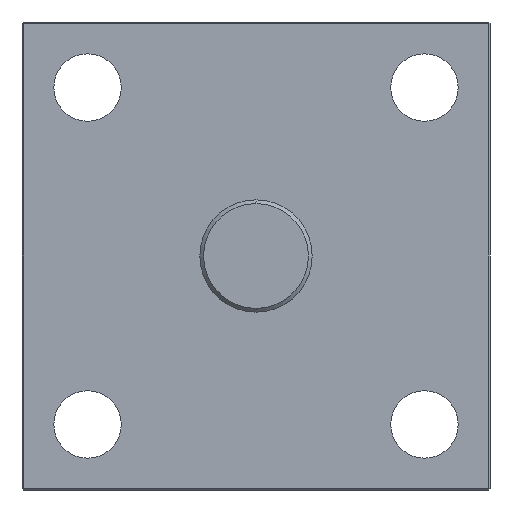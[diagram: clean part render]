
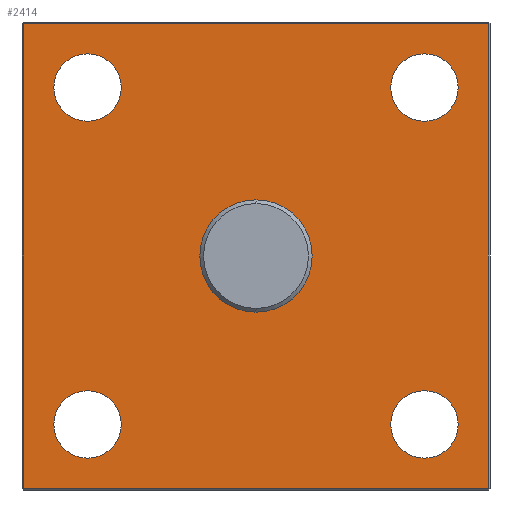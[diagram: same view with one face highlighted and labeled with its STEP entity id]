
A CAD part, left-side view. The second image highlights one B-rep face of the part: STEP entity #2414.
In plain terms, the highlighted planar face has unit normal (-1, 0, 0).
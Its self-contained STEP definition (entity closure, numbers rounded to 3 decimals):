
#17 = CARTESIAN_POINT ( 'NONE',  ( -12.5, 45., -45. ) ) ;
#40 = VERTEX_POINT ( 'NONE', #487 ) ;
#58 = AXIS2_PLACEMENT_3D ( 'NONE', #536, #2365, #492 ) ;
#110 = EDGE_LOOP ( 'NONE', ( #977, #2380, #579, #1015 ) ) ;
#187 = CARTESIAN_POINT ( 'NONE',  ( -12.5, -45., -54. ) ) ;
#202 = CIRCLE ( 'NONE', #2371, 9. ) ;
#222 = CARTESIAN_POINT ( 'NONE',  ( -12.5, -62., 62. ) ) ;
#237 = DIRECTION ( 'NONE',  ( 0., 0., -1. ) ) ;
#255 = ORIENTED_EDGE ( 'NONE', *, *, #750, .T. ) ;
#277 = LINE ( 'NONE', #1115, #1420 ) ;
#285 = CARTESIAN_POINT ( 'NONE',  ( -12.5, 0., 0. ) ) ;
#292 = VERTEX_POINT ( 'NONE', #1951 ) ;
#295 = VERTEX_POINT ( 'NONE', #597 ) ;
#301 = CARTESIAN_POINT ( 'NONE',  ( -12.5, 62., 0. ) ) ;
#347 = DIRECTION ( 'NONE',  ( 0., 0., -1. ) ) ;
#349 = CIRCLE ( 'NONE', #1495, 9. ) ;
#363 = CIRCLE ( 'NONE', #2458, 15. ) ;
#368 = DIRECTION ( 'NONE',  ( 1., 0., 0. ) ) ;
#372 = EDGE_LOOP ( 'NONE', ( #2511, #1978 ) ) ;
#374 = AXIS2_PLACEMENT_3D ( 'NONE', #1715, #864, #2113 ) ;
#400 = DIRECTION ( 'NONE',  ( 1., 0., 0. ) ) ;
#414 = FACE_BOUND ( 'NONE', #1737, .T. ) ;
#487 = CARTESIAN_POINT ( 'NONE',  ( -12.5, -45., 36. ) ) ;
#492 = DIRECTION ( 'NONE',  ( 0., 0., -1. ) ) ;
#502 = PLANE ( 'NONE',  #1208 ) ;
#506 = EDGE_CURVE ( 'NONE', #1667, #1662, #349, .T. ) ;
#515 = LINE ( 'NONE', #1955, #2285 ) ;
#525 = DIRECTION ( 'NONE',  ( 1., 0., 0. ) ) ;
#536 = CARTESIAN_POINT ( 'NONE',  ( -12.5, -45., -45. ) ) ;
#537 = EDGE_CURVE ( 'NONE', #555, #863, #1422, .T. ) ;
#555 = VERTEX_POINT ( 'NONE', #910 ) ;
#579 = ORIENTED_EDGE ( 'NONE', *, *, #2484, .T. ) ;
#593 = EDGE_CURVE ( 'NONE', #1042, #721, #1013, .T. ) ;
#597 = CARTESIAN_POINT ( 'NONE',  ( -12.5, -45., 54. ) ) ;
#608 = CARTESIAN_POINT ( 'NONE',  ( -12.5, 45., -54. ) ) ;
#609 = EDGE_CURVE ( 'NONE', #40, #295, #2328, .T. ) ;
#613 = CARTESIAN_POINT ( 'NONE',  ( -12.5, 45., 36. ) ) ;
#616 = VECTOR ( 'NONE', #1959, 1000. ) ;
#628 = FACE_BOUND ( 'NONE', #2426, .T. ) ;
#632 = LINE ( 'NONE', #764, #956 ) ;
#657 = DIRECTION ( 'NONE',  ( 0., 0., -1. ) ) ;
#721 = VERTEX_POINT ( 'NONE', #1286 ) ;
#746 = DIRECTION ( 'NONE',  ( 1., 0., 0. ) ) ;
#750 = EDGE_CURVE ( 'NONE', #1662, #1667, #1788, .T. ) ;
#764 = CARTESIAN_POINT ( 'NONE',  ( -12.5, 0., 62. ) ) ;
#765 = ORIENTED_EDGE ( 'NONE', *, *, #506, .T. ) ;
#769 = DIRECTION ( 'NONE',  ( 0., 1., 0. ) ) ;
#811 = VERTEX_POINT ( 'NONE', #1440 ) ;
#823 = ORIENTED_EDGE ( 'NONE', *, *, #1797, .T. ) ;
#849 = EDGE_CURVE ( 'NONE', #721, #1042, #363, .T. ) ;
#863 = VERTEX_POINT ( 'NONE', #1759 ) ;
#864 = DIRECTION ( 'NONE',  ( 1., 0., 0. ) ) ;
#910 = CARTESIAN_POINT ( 'NONE',  ( -12.5, 62., 62. ) ) ;
#916 = DIRECTION ( 'NONE',  ( 0., 0., -1. ) ) ;
#950 = AXIS2_PLACEMENT_3D ( 'NONE', #1882, #525, #1966 ) ;
#956 = VECTOR ( 'NONE', #769, 1000. ) ;
#957 = CARTESIAN_POINT ( 'NONE',  ( -12.5, 45., 45. ) ) ;
#961 = AXIS2_PLACEMENT_3D ( 'NONE', #17, #400, #1846 ) ;
#977 = ORIENTED_EDGE ( 'NONE', *, *, #537, .T. ) ;
#981 = EDGE_CURVE ( 'NONE', #1881, #555, #632, .T. ) ;
#1001 = AXIS2_PLACEMENT_3D ( 'NONE', #957, #1561, #237 ) ;
#1013 = CIRCLE ( 'NONE', #1689, 15. ) ;
#1015 = ORIENTED_EDGE ( 'NONE', *, *, #981, .T. ) ;
#1042 = VERTEX_POINT ( 'NONE', #2111 ) ;
#1115 = CARTESIAN_POINT ( 'NONE',  ( -12.5, 0., -62. ) ) ;
#1145 = DIRECTION ( 'NONE',  ( 1., 0., 0. ) ) ;
#1147 = DIRECTION ( 'NONE',  ( 1., 0., 0. ) ) ;
#1208 = AXIS2_PLACEMENT_3D ( 'NONE', #285, #368, #1739 ) ;
#1210 = FACE_BOUND ( 'NONE', #2023, .T. ) ;
#1212 = FACE_BOUND ( 'NONE', #372, .T. ) ;
#1281 = DIRECTION ( 'NONE',  ( 1., 0., 0. ) ) ;
#1286 = CARTESIAN_POINT ( 'NONE',  ( -12.5, 0., 15. ) ) ;
#1313 = CARTESIAN_POINT ( 'NONE',  ( -12.5, -45., -45. ) ) ;
#1318 = CARTESIAN_POINT ( 'NONE',  ( -12.5, 0., 0. ) ) ;
#1383 = EDGE_CURVE ( 'NONE', #1626, #2460, #1451, .T. ) ;
#1387 = DIRECTION ( 'NONE',  ( 0., 0., -1. ) ) ;
#1409 = CIRCLE ( 'NONE', #961, 9. ) ;
#1420 = VECTOR ( 'NONE', #2366, 1000. ) ;
#1422 = LINE ( 'NONE', #301, #616 ) ;
#1440 = CARTESIAN_POINT ( 'NONE',  ( -12.5, 45., -36. ) ) ;
#1451 = CIRCLE ( 'NONE', #1001, 9. ) ;
#1468 = CARTESIAN_POINT ( 'NONE',  ( -12.5, 0., 0. ) ) ;
#1495 = AXIS2_PLACEMENT_3D ( 'NONE', #1313, #1835, #916 ) ;
#1546 = CARTESIAN_POINT ( 'NONE',  ( -12.5, 45., -45. ) ) ;
#1550 = EDGE_CURVE ( 'NONE', #811, #2338, #202, .T. ) ;
#1561 = DIRECTION ( 'NONE',  ( 1., 0., 0. ) ) ;
#1570 = EDGE_CURVE ( 'NONE', #295, #40, #1962, .T. ) ;
#1582 = DIRECTION ( 'NONE',  ( 0., 0., 1. ) ) ;
#1599 = CARTESIAN_POINT ( 'NONE',  ( -12.5, -45., 45. ) ) ;
#1613 = ORIENTED_EDGE ( 'NONE', *, *, #593, .T. ) ;
#1626 = VERTEX_POINT ( 'NONE', #613 ) ;
#1662 = VERTEX_POINT ( 'NONE', #187 ) ;
#1665 = FACE_OUTER_BOUND ( 'NONE', #110, .T. ) ;
#1667 = VERTEX_POINT ( 'NONE', #2159 ) ;
#1682 = CIRCLE ( 'NONE', #374, 9. ) ;
#1689 = AXIS2_PLACEMENT_3D ( 'NONE', #1318, #746, #2404 ) ;
#1707 = FACE_BOUND ( 'NONE', #2095, .T. ) ;
#1715 = CARTESIAN_POINT ( 'NONE',  ( -12.5, 45., 45. ) ) ;
#1737 = EDGE_LOOP ( 'NONE', ( #823, #2462 ) ) ;
#1739 = DIRECTION ( 'NONE',  ( 0., 0., -1. ) ) ;
#1759 = CARTESIAN_POINT ( 'NONE',  ( -12.5, 62., -62. ) ) ;
#1775 = ORIENTED_EDGE ( 'NONE', *, *, #1570, .T. ) ;
#1788 = CIRCLE ( 'NONE', #58, 9. ) ;
#1797 = EDGE_CURVE ( 'NONE', #2338, #811, #1409, .T. ) ;
#1835 = DIRECTION ( 'NONE',  ( 1., 0., 0. ) ) ;
#1846 = DIRECTION ( 'NONE',  ( 0., 0., -1. ) ) ;
#1881 = VERTEX_POINT ( 'NONE', #222 ) ;
#1882 = CARTESIAN_POINT ( 'NONE',  ( -12.5, -45., 45. ) ) ;
#1951 = CARTESIAN_POINT ( 'NONE',  ( -12.5, -62., -62. ) ) ;
#1955 = CARTESIAN_POINT ( 'NONE',  ( -12.5, -62., 0. ) ) ;
#1959 = DIRECTION ( 'NONE',  ( 0., 0., -1. ) ) ;
#1962 = CIRCLE ( 'NONE', #2487, 9. ) ;
#1966 = DIRECTION ( 'NONE',  ( 0., 0., -1. ) ) ;
#1978 = ORIENTED_EDGE ( 'NONE', *, *, #2260, .T. ) ;
#2012 = EDGE_CURVE ( 'NONE', #863, #292, #277, .T. ) ;
#2023 = EDGE_LOOP ( 'NONE', ( #255, #765 ) ) ;
#2095 = EDGE_LOOP ( 'NONE', ( #1613, #2175 ) ) ;
#2111 = CARTESIAN_POINT ( 'NONE',  ( -12.5, 0., -15. ) ) ;
#2113 = DIRECTION ( 'NONE',  ( 0., 0., -1. ) ) ;
#2159 = CARTESIAN_POINT ( 'NONE',  ( -12.5, -45., -36. ) ) ;
#2175 = ORIENTED_EDGE ( 'NONE', *, *, #849, .T. ) ;
#2225 = CARTESIAN_POINT ( 'NONE',  ( -12.5, 45., 54. ) ) ;
#2260 = EDGE_CURVE ( 'NONE', #2460, #1626, #1682, .T. ) ;
#2285 = VECTOR ( 'NONE', #1582, 1000. ) ;
#2328 = CIRCLE ( 'NONE', #950, 9. ) ;
#2338 = VERTEX_POINT ( 'NONE', #608 ) ;
#2365 = DIRECTION ( 'NONE',  ( 1., 0., 0. ) ) ;
#2366 = DIRECTION ( 'NONE',  ( 0., -1., 0. ) ) ;
#2371 = AXIS2_PLACEMENT_3D ( 'NONE', #1546, #1147, #657 ) ;
#2380 = ORIENTED_EDGE ( 'NONE', *, *, #2012, .T. ) ;
#2404 = DIRECTION ( 'NONE',  ( 0., 0., -1. ) ) ;
#2414 = ADVANCED_FACE ( 'NONE', ( #1665, #1707, #1210, #628, #1212, #414 ), #502, .F. ) ;
#2426 = EDGE_LOOP ( 'NONE', ( #2442, #1775 ) ) ;
#2442 = ORIENTED_EDGE ( 'NONE', *, *, #609, .T. ) ;
#2458 = AXIS2_PLACEMENT_3D ( 'NONE', #1468, #1145, #347 ) ;
#2460 = VERTEX_POINT ( 'NONE', #2225 ) ;
#2462 = ORIENTED_EDGE ( 'NONE', *, *, #1550, .T. ) ;
#2484 = EDGE_CURVE ( 'NONE', #292, #1881, #515, .T. ) ;
#2487 = AXIS2_PLACEMENT_3D ( 'NONE', #1599, #1281, #1387 ) ;
#2511 = ORIENTED_EDGE ( 'NONE', *, *, #1383, .T. ) ;
